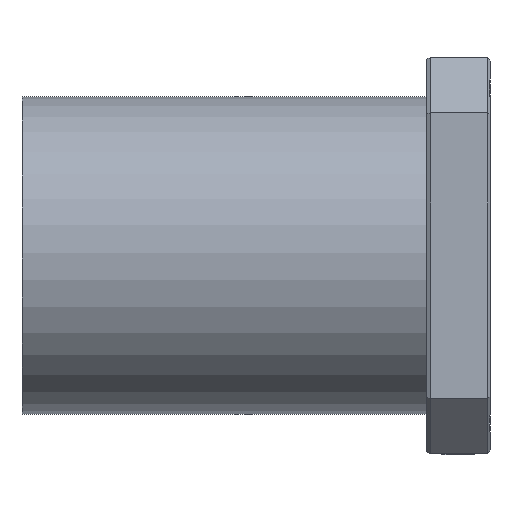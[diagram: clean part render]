
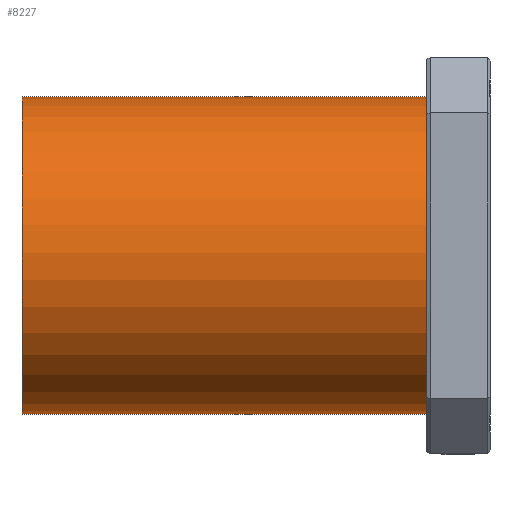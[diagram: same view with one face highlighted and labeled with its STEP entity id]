
A CAD part, left-side view. The second image highlights one B-rep face of the part: STEP entity #8227.
In plain terms, the highlighted cylindrical face has radius 20 mm (diameter 40 mm), a partial arc.
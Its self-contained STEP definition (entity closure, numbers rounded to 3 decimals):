
#141 = CARTESIAN_POINT ( 'NONE',  ( 0., 0., 0. ) ) ;
#324 = AXIS2_PLACEMENT_3D ( 'NONE', #141, #9194, #8493 ) ;
#357 = CARTESIAN_POINT ( 'NONE',  ( 0., 59., -20. ) ) ;
#568 = VECTOR ( 'NONE', #9230, 1000. ) ;
#823 = AXIS2_PLACEMENT_3D ( 'NONE', #3468, #3364, #3154 ) ;
#899 = DIRECTION ( 'NONE',  ( 0., -1., 0. ) ) ;
#1298 = EDGE_CURVE ( 'NONE', #2333, #1507, #9151, .T. ) ;
#1410 = CARTESIAN_POINT ( 'NONE',  ( 0., 59., 20. ) ) ;
#1507 = VERTEX_POINT ( 'NONE', #6584 ) ;
#1941 = CIRCLE ( 'NONE', #2889, 20. ) ;
#2333 = VERTEX_POINT ( 'NONE', #357 ) ;
#2418 = ORIENTED_EDGE ( 'NONE', *, *, #4319, .F. ) ;
#2885 = ORIENTED_EDGE ( 'NONE', *, *, #4289, .T. ) ;
#2889 = AXIS2_PLACEMENT_3D ( 'NONE', #5035, #5004, #4908 ) ;
#3154 = DIRECTION ( 'NONE',  ( 0., 0., -1. ) ) ;
#3249 = ORIENTED_EDGE ( 'NONE', *, *, #3341, .F. ) ;
#3341 = EDGE_CURVE ( 'NONE', #2333, #6869, #1941, .T. ) ;
#3364 = DIRECTION ( 'NONE',  ( 0., -1., 0. ) ) ;
#3468 = CARTESIAN_POINT ( 'NONE',  ( 0., 59., 0. ) ) ;
#3509 = CARTESIAN_POINT ( 'NONE',  ( 0., 59., -20. ) ) ;
#4203 = VERTEX_POINT ( 'NONE', #8037 ) ;
#4289 = EDGE_CURVE ( 'NONE', #1507, #4203, #7888, .T. ) ;
#4319 = EDGE_CURVE ( 'NONE', #6869, #4203, #7551, .T. ) ;
#4908 = DIRECTION ( 'NONE',  ( 0., 0., 1. ) ) ;
#5004 = DIRECTION ( 'NONE',  ( 0., 1., 0. ) ) ;
#5035 = CARTESIAN_POINT ( 'NONE',  ( 0., 59., 0. ) ) ;
#5408 = EDGE_LOOP ( 'NONE', ( #2418, #3249, #8161, #2885 ) ) ;
#6584 = CARTESIAN_POINT ( 'NONE',  ( 0., 0., -20. ) ) ;
#6869 = VERTEX_POINT ( 'NONE', #7361 ) ;
#7361 = CARTESIAN_POINT ( 'NONE',  ( 0., 59., 20. ) ) ;
#7551 = LINE ( 'NONE', #1410, #568 ) ;
#7888 = CIRCLE ( 'NONE', #324, 20. ) ;
#8037 = CARTESIAN_POINT ( 'NONE',  ( 0., 0., 20. ) ) ;
#8161 = ORIENTED_EDGE ( 'NONE', *, *, #1298, .T. ) ;
#8227 = ADVANCED_FACE ( 'NONE', ( #8786 ), #8702, .T. ) ;
#8493 = DIRECTION ( 'NONE',  ( 0., 0., 1. ) ) ;
#8702 = CYLINDRICAL_SURFACE ( 'NONE', #823, 20. ) ;
#8786 = FACE_OUTER_BOUND ( 'NONE', #5408, .T. ) ;
#9151 = LINE ( 'NONE', #3509, #9177 ) ;
#9177 = VECTOR ( 'NONE', #899, 1000. ) ;
#9194 = DIRECTION ( 'NONE',  ( 0., 1., 0. ) ) ;
#9230 = DIRECTION ( 'NONE',  ( 0., -1., 0. ) ) ;
